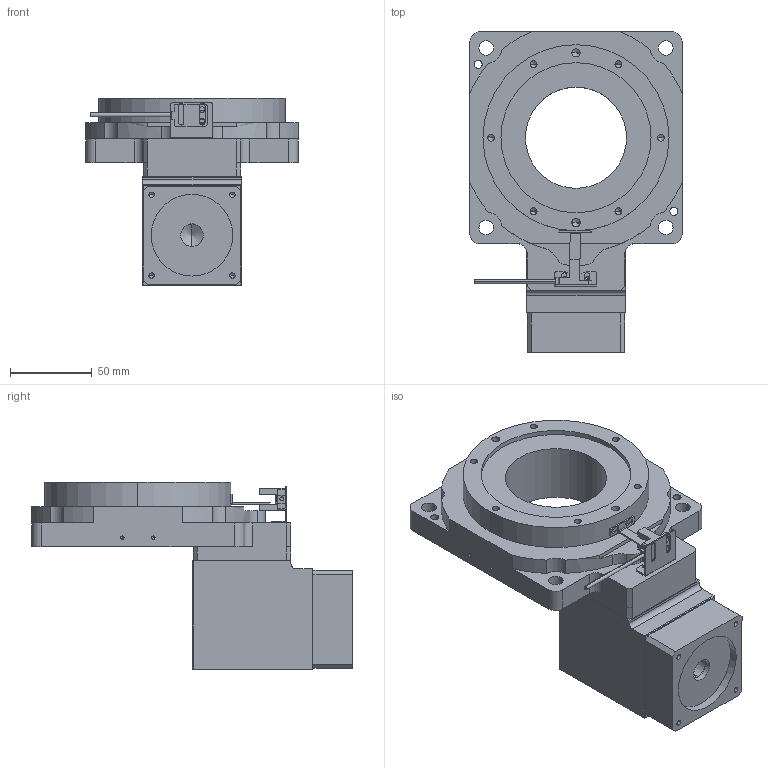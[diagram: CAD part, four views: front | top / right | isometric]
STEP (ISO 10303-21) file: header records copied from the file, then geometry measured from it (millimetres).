
FILE_DESCRIPTION (( 'STEP AP203' ), '1' );
FILE_NAME ('RTR130-20K-30K-14-50-70-M4(前方向).STEP', '2024-05-21T10:55:54', ( '' ), ( '' ), 'SwSTEP 2.0', 'SolidWorks 2023', '' );
FILE_SCHEMA (( 'CONFIG_CONTROL_DESIGN' ));
Length unit declared in the file: millimetre
Products named in the file (1): RTR130-20K-30K-14-50-70-M4(前方向)
Bounding box: 130 x 196.3 x 115 mm (x, y, z)
Volume: 788571.3 mm3; surface area: 171513.9 mm2
Topology: 41 solids, 47 shells, 1364 faces, 3814 edges, 2252 vertices
Faces by surface type: cylinder 374, plane 262, cone 241, torus 222, sphere 212, bspline 53
Entity records: 51341 total; most frequent: CARTESIAN_POINT 19427, ORIENTED_EDGE 6844, DIRECTION 6556, EDGE_CURVE 3422, AXIS2_PLACEMENT_3D 2757, VERTEX_POINT 2146, EDGE_LOOP 1508, CIRCLE 1445
